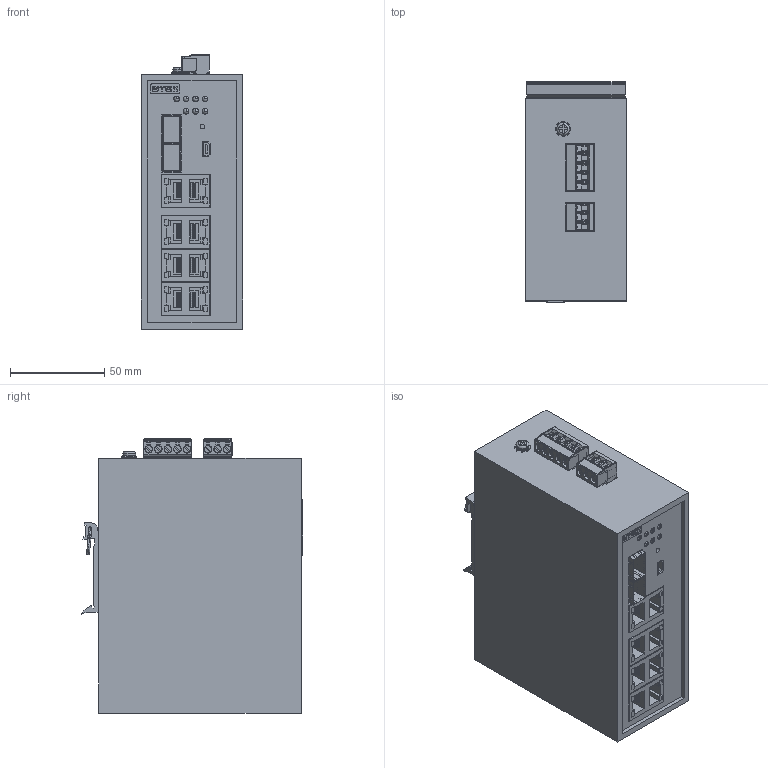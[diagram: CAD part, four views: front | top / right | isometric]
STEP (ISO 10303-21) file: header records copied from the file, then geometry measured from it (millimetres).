
FILE_DESCRIPTION(('TFLEX Exchange Step'),'2;1');
FILE_NAME('70110002_STEZ3108-2GSFP.stp', '2025-08-27T10:17:12+03:00',('YLedovskikh'),('Unknown organisation'),'TFLEX Exchange 2023.2','T-FLEX CAD','Unknown authorisation');
FILE_SCHEMA( ('AUTOMOTIVE_DESIGN { 1 0 10303 214 1 1 1 1 }') );
Length unit declared in the file: millimetre
Products named in the file (1): Тело_21:1
Bounding box: 53.6 x 117.05 x 145.2 mm (x, y, z)
Volume: 751634.3 mm3; surface area: 105129.1 mm2
Topology: 3 solids, 29 shells, 2481 faces, 7376 edges, 4915 vertices
Faces by surface type: plane 1696, cylinder 528, bspline 179, cone 32, sphere 26, extrusion 16, torus 4
Full cylindrical faces by diameter (mm): 0.8 x2, 1 x3, 1.02 x16, 1.3 x8, 1.5 x2, 3 x8, 3.25 x8, 3.821 x8, 4 x10, 4.4 x1, 6.8 x1
Entity records: 87159 total; most frequent: CARTESIAN_POINT 19306, ORIENTED_EDGE 14708, DIRECTION 12744, EDGE_CURVE 7354, VECTOR 5386, LINE 5370, VERTEX_POINT 4911, AXIS2_PLACEMENT_3D 3679
